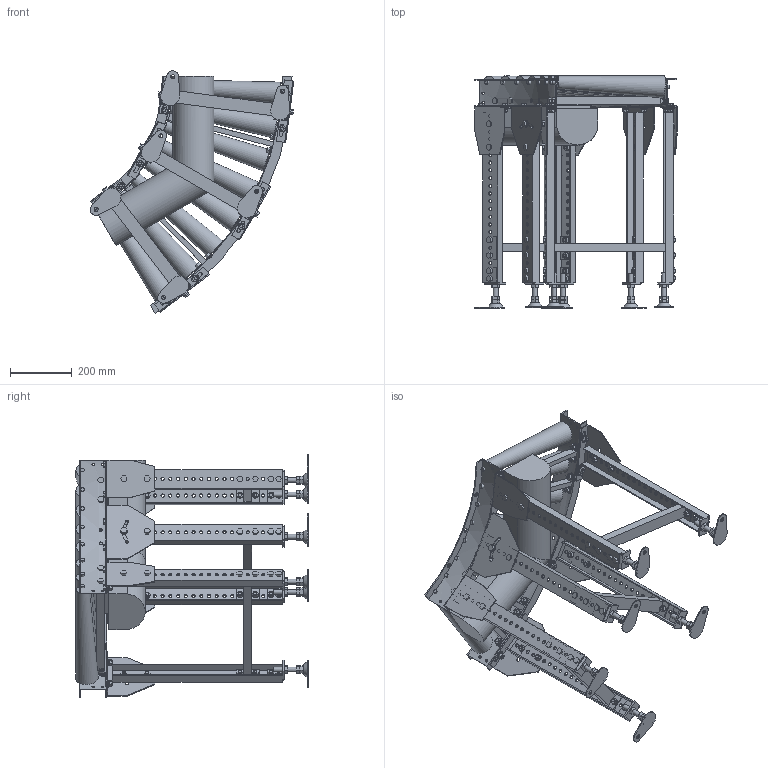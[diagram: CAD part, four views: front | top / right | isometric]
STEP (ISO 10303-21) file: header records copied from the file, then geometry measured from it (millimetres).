
FILE_DESCRIPTION( (''), '2;1');
FILE_NAME ('WEB-MCD-50-355-75-60°-C5.stp','2025-06-26T16:53:45',(''),(''),'spGate 20.6.2 (****-****-****-****)','','');
FILE_SCHEMA (('AUTOMOTIVE_DESIGN'));
Length unit declared in the file: millimetre
Products named in the file (45): WEB-MCD-50-355-75-60_-C5; TEMP_X_T-prt0; TEMP_X_T-prt1; TEMP_X_T-prt2; TEMP_X_T-prt3; TEMP_X_T-prt4; TEMP_X_T-prt5; TEMP_X_T-prt6; TEMP_X_T-prt7; TEMP_X_T-prt8; TEMP_X_T-prt9; TEMP_X_T-prt10; TEMP_X_T-prt11; TEMP_X_T-prt12; TEMP_X_T-prt13; TEMP_X_T-prt14; TEMP_X_T-prt15; TEMP_X_T-prt16; TEMP_X_T-prt17; TEMP_X_T-prt18; TEMP_X_T-prt19; TEMP_X_T-prt20; TEMP_X_T-prt21; TEMP_X_T-prt22; TEMP_X_T-prt23; TEMP_X_T-prt24; TEMP_X_T-prt25; TEMP_X_T-prt26; TEMP_X_T-prt27; TEMP_X_T-prt28; TEMP_X_T-prt29; TEMP_X_T-prt30; TEMP_X_T-prt31; TEMP_X_T-prt32; TEMP_X_T-prt33; TEMP_X_T-prt34; TEMP_X_T-prt35; TEMP_X_T-prt36; TEMP_X_T-prt37; TEMP_X_T-prt38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
Assembly tree (44 placements, depth 2):
  WEB-MCD-50-355-75-60_-C5
    TEMP_X_T-prt0
    TEMP_X_T-prt1
    TEMP_X_T-prt2
    TEMP_X_T-prt3
    TEMP_X_T-prt4
    TEMP_X_T-prt5
    TEMP_X_T-prt6
    TEMP_X_T-prt7
    TEMP_X_T-prt8
    TEMP_X_T-prt9
    TEMP_X_T-prt10
    TEMP_X_T-prt11
    TEMP_X_T-prt12
    TEMP_X_T-prt13
    TEMP_X_T-prt14
    TEMP_X_T-prt15
    TEMP_X_T-prt16
    TEMP_X_T-prt17
    TEMP_X_T-prt18
    TEMP_X_T-prt19
    TEMP_X_T-prt20
    TEMP_X_T-prt21
    TEMP_X_T-prt22
    TEMP_X_T-prt23
    TEMP_X_T-prt24
    TEMP_X_T-prt25
    TEMP_X_T-prt26
    TEMP_X_T-prt27
    TEMP_X_T-prt28
    TEMP_X_T-prt29
    TEMP_X_T-prt30
    TEMP_X_T-prt31
    TEMP_X_T-prt32
    TEMP_X_T-prt33
    TEMP_X_T-prt34
    TEMP_X_T-prt35
    TEMP_X_T-prt36
    TEMP_X_T-prt37
    TEMP_X_T-prt38
    TEMP_X_T-prt39
    TEMP_X_T-prt40
    TEMP_X_T-prt41
    TEMP_X_T-prt42
    TEMP_X_T-prt43
Bounding box: 657.94 x 749.97 x 783.19 mm (x, y, z)
Volume: 21416208 mm3; surface area: 2809438.2 mm2
Topology: 44 solids, 76 shells, 2754 faces, 6713 edges, 4316 vertices
Faces by surface type: plane 2324, cylinder 416, bspline 14
Full cylindrical faces by diameter (mm): 8.5 x8, 10 x72, 10.5 x138, 11 x6, 12 x16, 13 x6, 14 x6, 16 x6, 18.4 x48, 18.5 x12, 21 x24
Entity records: 139631 total; most frequent: CARTESIAN_POINT 17023, DIRECTION 13976, ORIENTED_EDGE 13426, COLOUR_RGB 9511, PRESENTATION_STYLE_ASSIGNMENT 9511, STYLED_ITEM 9511, EDGE_CURVE 6713, DRAUGHTING_PRE_DEFINED_CURVE_FONT 6713
